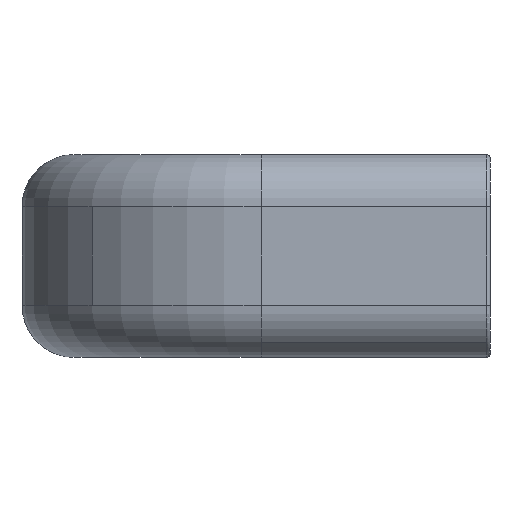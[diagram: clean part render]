
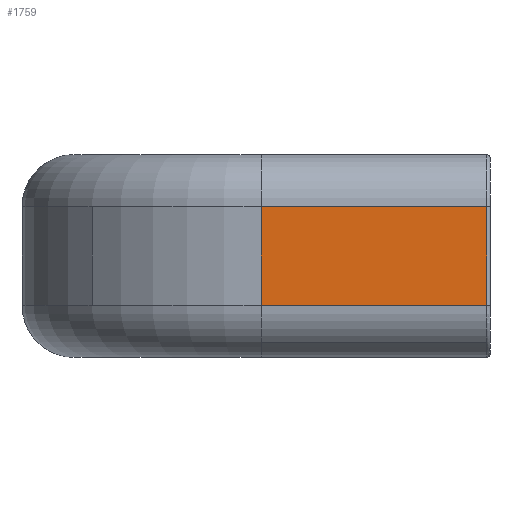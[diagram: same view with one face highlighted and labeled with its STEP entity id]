
A CAD part, left-side view. The second image highlights one B-rep face of the part: STEP entity #1759.
In plain terms, the highlighted planar face has unit normal (-1, 0, 0).
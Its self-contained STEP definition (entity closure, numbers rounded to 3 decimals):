
#373=CARTESIAN_POINT('',(-95.,0.3,-4.5));
#374=VERTEX_POINT('',#373);
#382=CARTESIAN_POINT('',(-95.,22.0,-4.5));
#383=VERTEX_POINT('',#382);
#384=CARTESIAN_POINT('',(-95.,22.0,-4.5));
#385=DIRECTION('',(0.0,-1.0,0.0));
#386=VECTOR('',#385,21.7);
#387=LINE('',#384,#386);
#388=EDGE_CURVE('',#383,#374,#387,.T.);
#652=CARTESIAN_POINT('',(-95.0,22.0,5.));
#653=VERTEX_POINT('',#652);
#654=CARTESIAN_POINT('',(-95.,22.0,-4.5));
#655=DIRECTION('',(0.0,0.0,1.0));
#656=VECTOR('',#655,9.5);
#657=LINE('',#654,#656);
#658=EDGE_CURVE('',#383,#653,#657,.T.);
#1657=CARTESIAN_POINT('',(-95.,0.3,5.));
#1658=VERTEX_POINT('',#1657);
#1659=CARTESIAN_POINT('',(-95.0,22.0,5.));
#1660=DIRECTION('',(0.0,-1.0,0.0));
#1661=VECTOR('',#1660,21.7);
#1662=LINE('',#1659,#1661);
#1663=EDGE_CURVE('',#653,#1658,#1662,.T.);
#1743=CARTESIAN_POINT('',(-95.,-0.785,5.475));
#1744=DIRECTION('',(1.0,0.0,0.0));
#1745=DIRECTION('',(0.0,0.0,-1.0));
#1746=AXIS2_PLACEMENT_3D('',#1743,#1744,#1745);
#1747=PLANE('',#1746);
#1748=ORIENTED_EDGE('',*,*,#388,.T.);
#1749=CARTESIAN_POINT('',(-95.,0.3,-4.5));
#1750=DIRECTION('',(0.0,0.0,1.0));
#1751=VECTOR('',#1750,9.5);
#1752=LINE('',#1749,#1751);
#1753=EDGE_CURVE('',#374,#1658,#1752,.T.);
#1754=ORIENTED_EDGE('',*,*,#1753,.T.);
#1755=ORIENTED_EDGE('',*,*,#1663,.F.);
#1756=ORIENTED_EDGE('',*,*,#658,.F.);
#1757=EDGE_LOOP('',(#1748,#1754,#1755,#1756));
#1758=FACE_OUTER_BOUND('',#1757,.T.);
#1759=ADVANCED_FACE('',(#1758),#1747,.F.);
